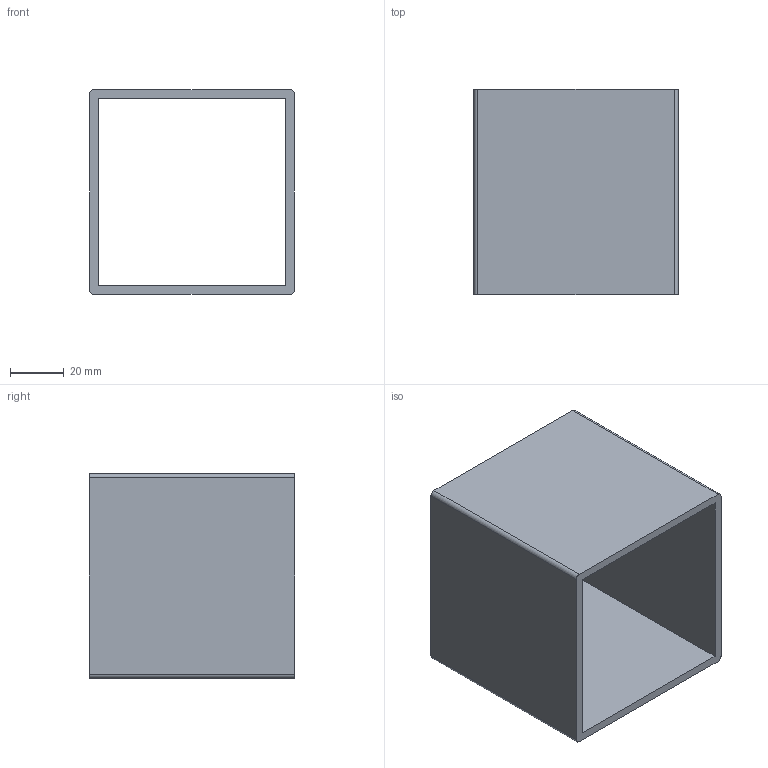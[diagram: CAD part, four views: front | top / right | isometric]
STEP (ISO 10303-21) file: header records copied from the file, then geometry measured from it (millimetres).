
FILE_DESCRIPTION(/* description */ (''),/* implementation_level */ '2;1');
FILE_NAME(/* name */ '6061-REC-300-300-125-IMPERIAL.step',/* time_stamp */ '2025-08-14T13:09:21-07:00',/* author */ (''),/* organization */ (''),/* preprocessor_version */ 'ST-DEVELOPER v20.1',/* originating_system */ 'Autodesk Translation Framework v14.10.0.0',/* authorisation */ '');
FILE_SCHEMA (('AUTOMOTIVE_DESIGN { 1 0 10303 214 3 1 1 }'));
Length unit declared in the file: inch
Products named in the file (1): (Unsaved)
Bounding box: 76.2 x 76.45 x 76.2 mm (x, y, z)
Volume: 70739.4 mm3; surface area: 46306.6 mm2
Topology: 1 solids, 1 shells, 14 faces, 36 edges, 24 vertices
Faces by surface type: plane 10, cylinder 4
Entity records: 467 total; most frequent: CARTESIAN_POINT 75, DIRECTION 74, ORIENTED_EDGE 72, EDGE_CURVE 36, LINE 28, VECTOR 28, VERTEX_POINT 24, AXIS2_PLACEMENT_3D 23
